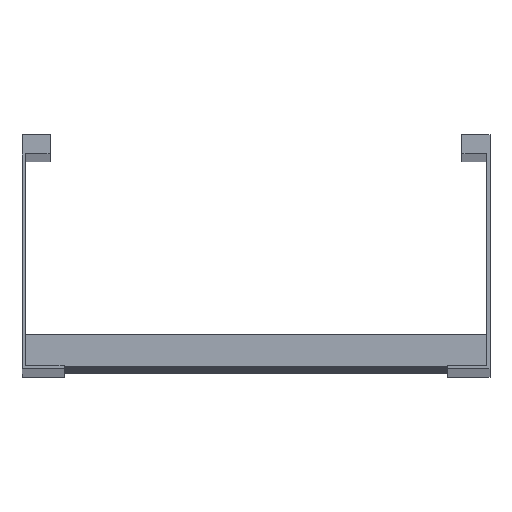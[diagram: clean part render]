
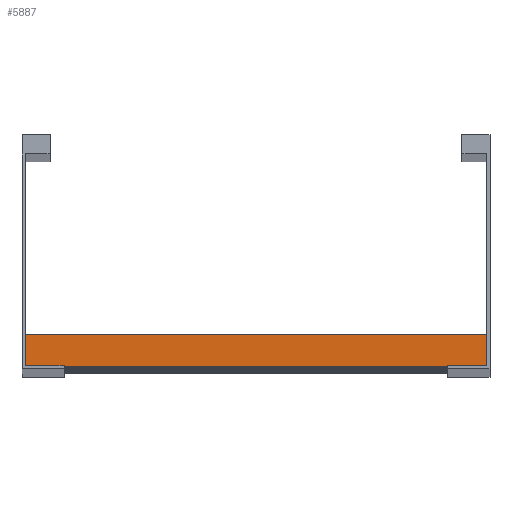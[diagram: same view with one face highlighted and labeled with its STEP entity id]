
A CAD part, top view. The second image highlights one B-rep face of the part: STEP entity #5887.
In plain terms, the highlighted planar face has unit normal (0, 0, 1).
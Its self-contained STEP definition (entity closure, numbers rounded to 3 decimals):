
#149 = VECTOR ( 'NONE', #3044, 1000. ) ;
#490 = LINE ( 'NONE', #6010, #11086 ) ;
#1214 = VERTEX_POINT ( 'NONE', #1825 ) ;
#1717 = EDGE_CURVE ( 'NONE', #11357, #1214, #4897, .T. ) ;
#1825 = CARTESIAN_POINT ( 'NONE',  ( -148., 0., 20.25 ) ) ;
#2374 = VERTEX_POINT ( 'NONE', #8550 ) ;
#2390 = AXIS2_PLACEMENT_3D ( 'NONE', #11379, #3544, #3426 ) ;
#2655 = LINE ( 'NONE', #7876, #7170 ) ;
#3044 = DIRECTION ( 'NONE',  ( 0., -1., 0. ) ) ;
#3286 = DIRECTION ( 'NONE',  ( -1., 0., 0. ) ) ;
#3328 = CARTESIAN_POINT ( 'NONE',  ( -148., 20., 20.25 ) ) ;
#3372 = PLANE ( 'NONE',  #2390 ) ;
#3426 = DIRECTION ( 'NONE',  ( 0., 1., 0. ) ) ;
#3544 = DIRECTION ( 'NONE',  ( 0., 0., -1. ) ) ;
#4897 = LINE ( 'NONE', #10997, #149 ) ;
#5490 = CARTESIAN_POINT ( 'NONE',  ( 148., 20., 20.25 ) ) ;
#5887 = ADVANCED_FACE ( 'NONE', ( #9576 ), #3372, .F. ) ;
#5967 = DIRECTION ( 'NONE',  ( -1., 0., 0. ) ) ;
#6010 = CARTESIAN_POINT ( 'NONE',  ( 148., 0., 20.25 ) ) ;
#6123 = ORIENTED_EDGE ( 'NONE', *, *, #10542, .T. ) ;
#6487 = ORIENTED_EDGE ( 'NONE', *, *, #10820, .F. ) ;
#6650 = CARTESIAN_POINT ( 'NONE',  ( 148., 20., 20.25 ) ) ;
#6751 = ORIENTED_EDGE ( 'NONE', *, *, #7575, .F. ) ;
#7170 = VECTOR ( 'NONE', #5967, 1000. ) ;
#7575 = EDGE_CURVE ( 'NONE', #2374, #1214, #490, .T. ) ;
#7876 = CARTESIAN_POINT ( 'NONE',  ( 148., 20., 20.25 ) ) ;
#8550 = CARTESIAN_POINT ( 'NONE',  ( 148., 0., 20.25 ) ) ;
#9042 = VERTEX_POINT ( 'NONE', #5490 ) ;
#9272 = DIRECTION ( 'NONE',  ( 0., -1., 0. ) ) ;
#9576 = FACE_OUTER_BOUND ( 'NONE', #9691, .T. ) ;
#9691 = EDGE_LOOP ( 'NONE', ( #10748, #6751, #6487, #6123 ) ) ;
#10235 = VECTOR ( 'NONE', #9272, 1000. ) ;
#10262 = LINE ( 'NONE', #6650, #10235 ) ;
#10542 = EDGE_CURVE ( 'NONE', #9042, #11357, #2655, .T. ) ;
#10748 = ORIENTED_EDGE ( 'NONE', *, *, #1717, .T. ) ;
#10820 = EDGE_CURVE ( 'NONE', #9042, #2374, #10262, .T. ) ;
#10997 = CARTESIAN_POINT ( 'NONE',  ( -148., 20., 20.25 ) ) ;
#11086 = VECTOR ( 'NONE', #3286, 1000. ) ;
#11357 = VERTEX_POINT ( 'NONE', #3328 ) ;
#11379 = CARTESIAN_POINT ( 'NONE',  ( 148., 20., 20.25 ) ) ;
